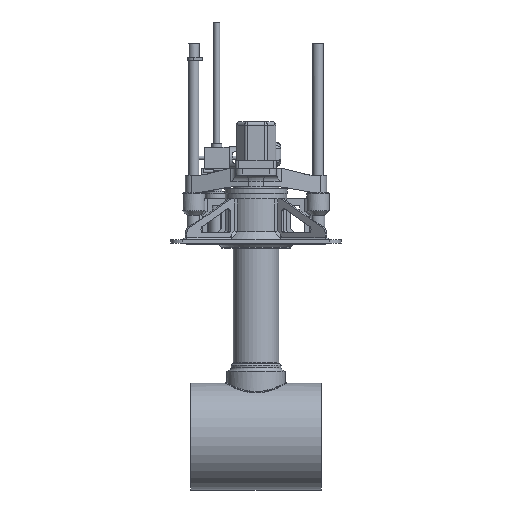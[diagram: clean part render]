
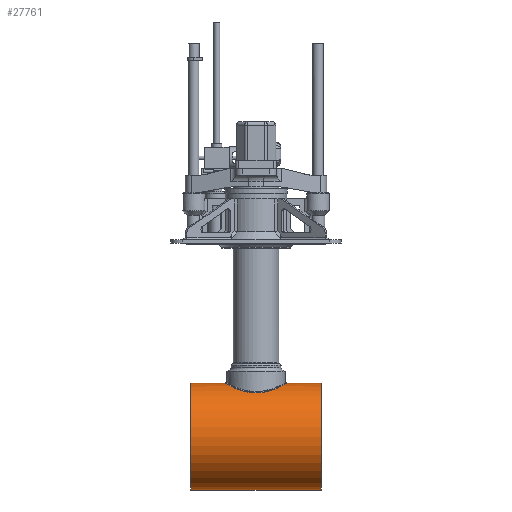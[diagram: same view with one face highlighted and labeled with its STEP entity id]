
A CAD part, front view. The second image highlights one B-rep face of the part: STEP entity #27761.
In plain terms, the highlighted cylindrical face has radius 156.7 mm (diameter 313.4 mm), a full revolution.
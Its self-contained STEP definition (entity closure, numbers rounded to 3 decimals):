
#323=FACE_BOUND('',#3134,.T.);
#531=B_SPLINE_CURVE_WITH_KNOTS('',3,(#40838,#40839,#40840,#40841,#40842,
#40843,#40844,#40845,#40846,#40847,#40848,#40849,#40850,#40851,#40852,#40853,
#40854,#40855,#40856,#40857,#40858,#40859,#40860,#40861,#40862,#40863,#40864,
#40865,#40866,#40867,#40868,#40869,#40870,#40871),.UNSPECIFIED.,.F.,.F.,
(4,2,2,2,2,2,2,2,2,2,2,2,2,2,2,2,4),(0.,0.959,1.918,
2.876,3.835,4.793,5.752,6.71,
7.669,8.627,9.585,10.544,11.502,
12.461,13.42,14.378,15.337),
 .UNSPECIFIED.);
#532=B_SPLINE_CURVE_WITH_KNOTS('',3,(#40872,#40873,#40874,#40875,#40876,
#40877,#40878,#40879,#40880,#40881,#40882,#40883,#40884,#40885,#40886,#40887,
#40888,#40889,#40890,#40891,#40892,#40893,#40894,#40895,#40896,#40897,#40898,
#40899,#40900,#40901,#40902,#40903,#40904,#40905),.UNSPECIFIED.,.F.,.F.,
(4,2,2,2,2,2,2,2,2,2,2,2,2,2,2,2,4),(15.337,16.296,17.255,
18.213,19.172,20.131,21.089,22.047,
23.006,23.964,24.922,25.881,26.839,
27.798,28.757,29.716,30.674),
 .UNSPECIFIED.);
#1645=FACE_OUTER_BOUND('',#3133,.T.);
#3133=EDGE_LOOP('',(#17753,#17754,#17755,#17756));
#3134=EDGE_LOOP('',(#17757,#17758));
#4773=LINE('',#40834,#7159);
#7159=VECTOR('',#32226,156.7);
#9567=CIRCLE('',#29309,156.7);
#9568=CIRCLE('',#29310,156.7);
#10882=VERTEX_POINT('',#40831);
#10883=VERTEX_POINT('',#40833);
#10884=VERTEX_POINT('',#40836);
#10885=VERTEX_POINT('',#40837);
#13566=EDGE_CURVE('',#10882,#10882,#9567,.T.);
#13567=EDGE_CURVE('',#10882,#10883,#4773,.T.);
#13568=EDGE_CURVE('',#10883,#10883,#9568,.T.);
#13569=EDGE_CURVE('',#10884,#10885,#531,.T.);
#13570=EDGE_CURVE('',#10885,#10884,#532,.T.);
#17753=ORIENTED_EDGE('',*,*,#13566,.T.);
#17754=ORIENTED_EDGE('',*,*,#13567,.T.);
#17755=ORIENTED_EDGE('',*,*,#13568,.T.);
#17756=ORIENTED_EDGE('',*,*,#13567,.F.);
#17757=ORIENTED_EDGE('',*,*,#13569,.T.);
#17758=ORIENTED_EDGE('',*,*,#13570,.T.);
#25742=CYLINDRICAL_SURFACE('',#29308,156.7);
#27761=ADVANCED_FACE('',(#1645,#323),#25742,.T.);
#29308=AXIS2_PLACEMENT_3D('',#40830,#32222,#32223);
#29309=AXIS2_PLACEMENT_3D('',#40832,#32224,#32225);
#29310=AXIS2_PLACEMENT_3D('',#40835,#32227,#32228);
#32222=DIRECTION('center_axis',(1.,0.,0.));
#32223=DIRECTION('ref_axis',(0.,0.,
1.));
#32224=DIRECTION('center_axis',(-1.,0.,0.));
#32225=DIRECTION('ref_axis',(0.,0.,
1.));
#32226=DIRECTION('',(-1.,0.,0.));
#32227=DIRECTION('center_axis',(1.,0.,0.));
#32228=DIRECTION('ref_axis',(0.,0.,
1.));
#40830=CARTESIAN_POINT('Origin',(0.,0.,
-566.377));
#40831=CARTESIAN_POINT('',(192.5,0.,-723.077));
#40832=CARTESIAN_POINT('Origin',(192.5,0.,-566.377));
#40833=CARTESIAN_POINT('',(-192.5,0.,-723.077));
#40834=CARTESIAN_POINT('',(0.,0.,-723.077));
#40835=CARTESIAN_POINT('Origin',(-192.5,0.,-566.377));
#40836=CARTESIAN_POINT('',(0.,-50.5,-418.037));
#40837=CARTESIAN_POINT('',(0.,50.5,-418.037));
#40838=CARTESIAN_POINT('Ctrl Pts',(0.,-50.5,
-418.037));
#40839=CARTESIAN_POINT('Ctrl Pts',(-3.196,-50.5,
-418.037));
#40840=CARTESIAN_POINT('Ctrl Pts',(-6.493,-50.192,
-417.931));
#40841=CARTESIAN_POINT('Ctrl Pts',(-13.036,-48.902,
-417.501));
#40842=CARTESIAN_POINT('Ctrl Pts',(-16.282,-47.921,
-417.178));
#40843=CARTESIAN_POINT('Ctrl Pts',(-22.496,-45.338,-416.373));
#40844=CARTESIAN_POINT('Ctrl Pts',(-25.468,-43.733,
-415.891));
#40845=CARTESIAN_POINT('Ctrl Pts',(-30.96,-40.034,-414.865));
#40846=CARTESIAN_POINT('Ctrl Pts',(-33.479,-37.938,
-414.322));
#40847=CARTESIAN_POINT('Ctrl Pts',(-37.938,-33.48,
-413.278));
#40848=CARTESIAN_POINT('Ctrl Pts',(-40.033,-30.961,
-412.741));
#40849=CARTESIAN_POINT('Ctrl Pts',(-43.732,-25.469,
-411.735));
#40850=CARTESIAN_POINT('Ctrl Pts',(-45.338,-22.496,
-411.268));
#40851=CARTESIAN_POINT('Ctrl Pts',(-47.922,-16.281,
-410.494));
#40852=CARTESIAN_POINT('Ctrl Pts',(-48.903,-13.034,
-410.186));
#40853=CARTESIAN_POINT('Ctrl Pts',(-50.192,-6.491,
-409.777));
#40854=CARTESIAN_POINT('Ctrl Pts',(-50.5,-3.195,
-409.677));
#40855=CARTESIAN_POINT('Ctrl Pts',(-50.5,3.195,-409.677));
#40856=CARTESIAN_POINT('Ctrl Pts',(-50.192,6.491,-409.777));
#40857=CARTESIAN_POINT('Ctrl Pts',(-48.903,13.034,-410.186));
#40858=CARTESIAN_POINT('Ctrl Pts',(-47.922,16.281,-410.494));
#40859=CARTESIAN_POINT('Ctrl Pts',(-45.338,22.496,-411.268));
#40860=CARTESIAN_POINT('Ctrl Pts',(-43.732,25.469,-411.735));
#40861=CARTESIAN_POINT('Ctrl Pts',(-40.033,30.961,-412.741));
#40862=CARTESIAN_POINT('Ctrl Pts',(-37.938,33.48,-413.278));
#40863=CARTESIAN_POINT('Ctrl Pts',(-33.479,37.938,-414.322));
#40864=CARTESIAN_POINT('Ctrl Pts',(-30.96,40.034,-414.865));
#40865=CARTESIAN_POINT('Ctrl Pts',(-25.468,43.733,-415.891));
#40866=CARTESIAN_POINT('Ctrl Pts',(-22.496,45.338,-416.373));
#40867=CARTESIAN_POINT('Ctrl Pts',(-16.282,47.921,-417.178));
#40868=CARTESIAN_POINT('Ctrl Pts',(-13.036,48.902,-417.501));
#40869=CARTESIAN_POINT('Ctrl Pts',(-6.493,50.192,-417.931));
#40870=CARTESIAN_POINT('Ctrl Pts',(-3.196,50.5,-418.037));
#40871=CARTESIAN_POINT('Ctrl Pts',(0.,50.5,
-418.037));
#40872=CARTESIAN_POINT('Ctrl Pts',(0.,50.5,
-418.037));
#40873=CARTESIAN_POINT('Ctrl Pts',(3.196,50.5,-418.037));
#40874=CARTESIAN_POINT('Ctrl Pts',(6.493,50.192,-417.931));
#40875=CARTESIAN_POINT('Ctrl Pts',(13.036,48.902,-417.501));
#40876=CARTESIAN_POINT('Ctrl Pts',(16.282,47.921,-417.178));
#40877=CARTESIAN_POINT('Ctrl Pts',(22.496,45.338,-416.373));
#40878=CARTESIAN_POINT('Ctrl Pts',(25.468,43.733,-415.891));
#40879=CARTESIAN_POINT('Ctrl Pts',(30.96,40.034,-414.865));
#40880=CARTESIAN_POINT('Ctrl Pts',(33.479,37.938,-414.322));
#40881=CARTESIAN_POINT('Ctrl Pts',(37.938,33.48,-413.278));
#40882=CARTESIAN_POINT('Ctrl Pts',(40.033,30.961,-412.741));
#40883=CARTESIAN_POINT('Ctrl Pts',(43.732,25.469,-411.735));
#40884=CARTESIAN_POINT('Ctrl Pts',(45.338,22.496,-411.268));
#40885=CARTESIAN_POINT('Ctrl Pts',(47.922,16.281,-410.494));
#40886=CARTESIAN_POINT('Ctrl Pts',(48.903,13.034,-410.186));
#40887=CARTESIAN_POINT('Ctrl Pts',(50.192,6.491,-409.777));
#40888=CARTESIAN_POINT('Ctrl Pts',(50.5,3.195,-409.677));
#40889=CARTESIAN_POINT('Ctrl Pts',(50.5,-3.195,-409.677));
#40890=CARTESIAN_POINT('Ctrl Pts',(50.192,-6.491,-409.777));
#40891=CARTESIAN_POINT('Ctrl Pts',(48.903,-13.034,-410.186));
#40892=CARTESIAN_POINT('Ctrl Pts',(47.922,-16.281,-410.494));
#40893=CARTESIAN_POINT('Ctrl Pts',(45.338,-22.496,-411.268));
#40894=CARTESIAN_POINT('Ctrl Pts',(43.732,-25.469,-411.735));
#40895=CARTESIAN_POINT('Ctrl Pts',(40.033,-30.961,-412.741));
#40896=CARTESIAN_POINT('Ctrl Pts',(37.938,-33.48,-413.278));
#40897=CARTESIAN_POINT('Ctrl Pts',(33.479,-37.938,-414.322));
#40898=CARTESIAN_POINT('Ctrl Pts',(30.96,-40.034,-414.865));
#40899=CARTESIAN_POINT('Ctrl Pts',(25.468,-43.733,-415.891));
#40900=CARTESIAN_POINT('Ctrl Pts',(22.496,-45.338,-416.373));
#40901=CARTESIAN_POINT('Ctrl Pts',(16.282,-47.921,-417.178));
#40902=CARTESIAN_POINT('Ctrl Pts',(13.036,-48.902,-417.501));
#40903=CARTESIAN_POINT('Ctrl Pts',(6.493,-50.192,-417.931));
#40904=CARTESIAN_POINT('Ctrl Pts',(3.196,-50.5,-418.037));
#40905=CARTESIAN_POINT('Ctrl Pts',(0.,-50.5,
-418.037));
